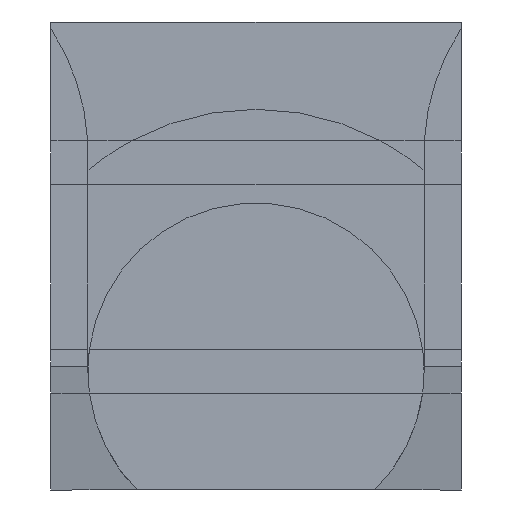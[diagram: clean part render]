
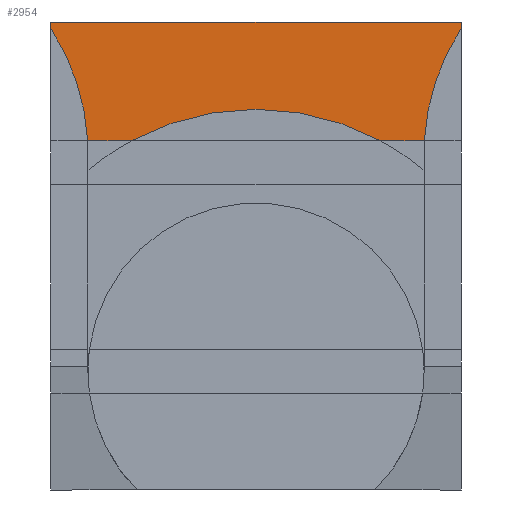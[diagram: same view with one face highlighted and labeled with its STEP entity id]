
A CAD part, left-side view. The second image highlights one B-rep face of the part: STEP entity #2954.
In plain terms, the highlighted planar face has unit normal (-1, 0, 0).
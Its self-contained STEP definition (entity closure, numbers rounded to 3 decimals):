
#47 = CARTESIAN_POINT ( 'NONE',  ( 58.01, 8.01, 4.71 ) ) ;
#109 = VECTOR ( 'NONE', #476, 1000. ) ;
#215 = DIRECTION ( 'NONE',  ( 0., 0., -1. ) ) ;
#381 = CIRCLE ( 'NONE', #2038, 5.2 ) ;
#399 = CIRCLE ( 'NONE', #3431, 5.2 ) ;
#459 = DIRECTION ( 'NONE',  ( -1., 0., 0. ) ) ;
#476 = DIRECTION ( 'NONE',  ( 0., 0., 1. ) ) ;
#526 = DIRECTION ( 'NONE',  ( 0., 0., -1. ) ) ;
#533 = EDGE_CURVE ( 'NONE', #2290, #578, #399, .T. ) ;
#560 = EDGE_LOOP ( 'NONE', ( #3596, #3879, #3338, #3413, #1017, #770, #2439, #3422 ) ) ;
#578 = VERTEX_POINT ( 'NONE', #3823 ) ;
#642 = VECTOR ( 'NONE', #1601, 1000. ) ;
#651 = VERTEX_POINT ( 'NONE', #2886 ) ;
#668 = DIRECTION ( 'NONE',  ( 0., 0., 1. ) ) ;
#708 = CARTESIAN_POINT ( 'NONE',  ( 58.01, 7.859, 4.71 ) ) ;
#717 = VERTEX_POINT ( 'NONE', #2574 ) ;
#724 = CARTESIAN_POINT ( 'NONE',  ( 58.01, 7.859, -4.69 ) ) ;
#770 = ORIENTED_EDGE ( 'NONE', *, *, #1730, .F. ) ;
#806 = EDGE_CURVE ( 'NONE', #3315, #3167, #3468, .T. ) ;
#838 = CARTESIAN_POINT ( 'NONE',  ( 58.01, 5.288, 9.06 ) ) ;
#933 = EDGE_CURVE ( 'NONE', #717, #578, #3944, .T. ) ;
#1017 = ORIENTED_EDGE ( 'NONE', *, *, #533, .F. ) ;
#1031 = DIRECTION ( 'NONE',  ( 0., -1., 0. ) ) ;
#1200 = AXIS2_PLACEMENT_3D ( 'NONE', #1418, #459, #215 ) ;
#1243 = DIRECTION ( 'NONE',  ( 0., 0., 1. ) ) ;
#1256 = DIRECTION ( 'NONE',  ( 0., -1., 0. ) ) ;
#1374 = FACE_OUTER_BOUND ( 'NONE', #560, .T. ) ;
#1379 = EDGE_CURVE ( 'NONE', #717, #2328, #3095, .T. ) ;
#1418 = CARTESIAN_POINT ( 'NONE',  ( 58.01, 0.01, 0.01 ) ) ;
#1507 = EDGE_CURVE ( 'NONE', #3315, #651, #2679, .T. ) ;
#1542 = DIRECTION ( 'NONE',  ( -1., 0., 0. ) ) ;
#1601 = DIRECTION ( 'NONE',  ( 0., 0., 1. ) ) ;
#1613 = CARTESIAN_POINT ( 'NONE',  ( 58.01, 7.859, -4.69 ) ) ;
#1730 = EDGE_CURVE ( 'NONE', #651, #2290, #4036, .T. ) ;
#1796 = CARTESIAN_POINT ( 'NONE',  ( 58.01, 5.01, 9.06 ) ) ;
#1932 = EDGE_CURVE ( 'NONE', #3167, #3764, #381, .T. ) ;
#1993 = CARTESIAN_POINT ( 'NONE',  ( 58.01, 8.01, -4.69 ) ) ;
#2038 = AXIS2_PLACEMENT_3D ( 'NONE', #2643, #3980, #668 ) ;
#2077 = CARTESIAN_POINT ( 'NONE',  ( 58.01, 5.288, -3.847 ) ) ;
#2167 = CARTESIAN_POINT ( 'NONE',  ( 58.01, 5.01, 9.06 ) ) ;
#2290 = VERTEX_POINT ( 'NONE', #708 ) ;
#2316 = VECTOR ( 'NONE', #1031, 1000. ) ;
#2328 = VERTEX_POINT ( 'NONE', #4078 ) ;
#2439 = ORIENTED_EDGE ( 'NONE', *, *, #1507, .F. ) ;
#2574 = CARTESIAN_POINT ( 'NONE',  ( 58.01, 5.288, 2.864 ) ) ;
#2643 = CARTESIAN_POINT ( 'NONE',  ( 58.01, 5.01, -9.04 ) ) ;
#2679 = LINE ( 'NONE', #47, #642 ) ;
#2814 = DIRECTION ( 'NONE',  ( 0., 0., -1. ) ) ;
#2886 = CARTESIAN_POINT ( 'NONE',  ( 58.01, 8.01, 4.71 ) ) ;
#2918 = LINE ( 'NONE', #3548, #3699 ) ;
#2954 = ADVANCED_FACE ( 'NONE', ( #1374 ), #3747, .F. ) ;
#3046 = AXIS2_PLACEMENT_3D ( 'NONE', #1796, #4127, #526 ) ;
#3095 = CIRCLE ( 'NONE', #1200, 6. ) ;
#3167 = VERTEX_POINT ( 'NONE', #1613 ) ;
#3232 = EDGE_CURVE ( 'NONE', #3764, #2328, #2918, .T. ) ;
#3315 = VERTEX_POINT ( 'NONE', #1993 ) ;
#3338 = ORIENTED_EDGE ( 'NONE', *, *, #1379, .F. ) ;
#3413 = ORIENTED_EDGE ( 'NONE', *, *, #933, .T. ) ;
#3422 = ORIENTED_EDGE ( 'NONE', *, *, #806, .T. ) ;
#3431 = AXIS2_PLACEMENT_3D ( 'NONE', #2167, #1542, #2814 ) ;
#3468 = LINE ( 'NONE', #724, #2316 ) ;
#3513 = CARTESIAN_POINT ( 'NONE',  ( 58.01, 7.859, 4.71 ) ) ;
#3548 = CARTESIAN_POINT ( 'NONE',  ( 58.01, 5.288, 9.06 ) ) ;
#3596 = ORIENTED_EDGE ( 'NONE', *, *, #1932, .T. ) ;
#3663 = VECTOR ( 'NONE', #1256, 1000. ) ;
#3699 = VECTOR ( 'NONE', #1243, 1000. ) ;
#3747 = PLANE ( 'NONE',  #3046 ) ;
#3764 = VERTEX_POINT ( 'NONE', #2077 ) ;
#3823 = CARTESIAN_POINT ( 'NONE',  ( 58.01, 5.288, 3.867 ) ) ;
#3879 = ORIENTED_EDGE ( 'NONE', *, *, #3232, .T. ) ;
#3944 = LINE ( 'NONE', #838, #109 ) ;
#3980 = DIRECTION ( 'NONE',  ( 1., 0., 0. ) ) ;
#4036 = LINE ( 'NONE', #3513, #3663 ) ;
#4078 = CARTESIAN_POINT ( 'NONE',  ( 58.01, 5.288, -2.844 ) ) ;
#4127 = DIRECTION ( 'NONE',  ( 1., 0., 0. ) ) ;
